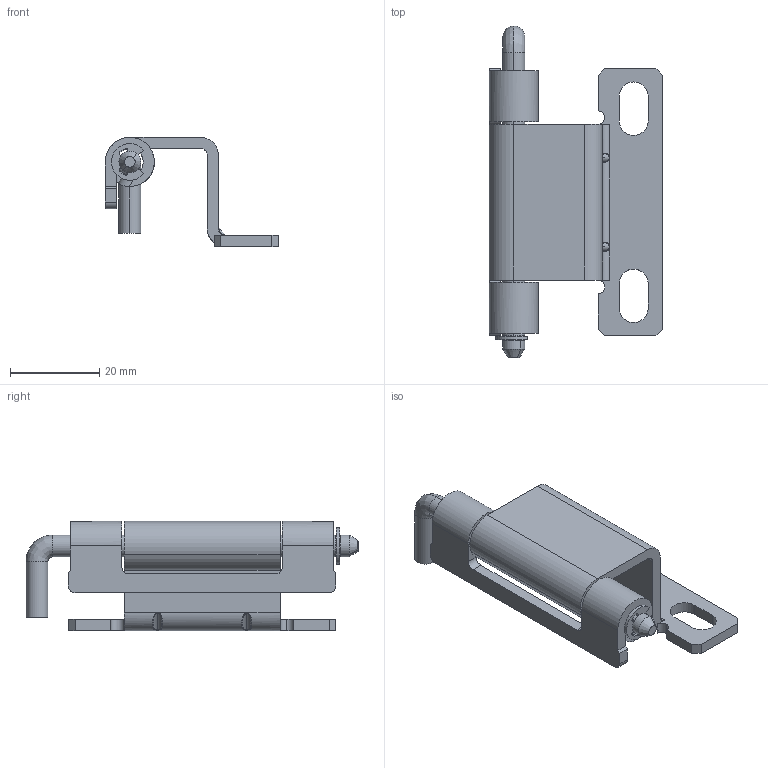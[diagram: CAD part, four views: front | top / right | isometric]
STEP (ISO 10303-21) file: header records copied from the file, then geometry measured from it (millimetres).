
FILE_DESCRIPTION(/* description */ (''),/* implementation_level */ '2;1');
FILE_NAME(/* name */ 'JL250-4',/* time_stamp */ '2025-03-17T11:54:47+08:00',/* author */ (''),/* organization */ (''),/* preprocessor_version */ 'ST-DEVELOPER v19.2',/* originating_system */ 'Rhino 8.5',/* authorisation */ '');
FILE_SCHEMA (('CONFIG_CONTROL_DESIGN'));
Length unit declared in the file: millimetre
Products named in the file (1): Document
Bounding box: 38.9 x 74.5 x 24.5 mm (x, y, z)
Volume: 10978.6 mm3; surface area: 10355.1 mm2
Topology: 4 solids, 4 shells, 126 faces, 319 edges, 206 vertices
Faces by surface type: cylinder 60, plane 46, bspline 20
Entity records: 4816 total; most frequent: CARTESIAN_POINT 2216, ORIENTED_EDGE 636, EDGE_CURVE 318, DIRECTION 306, AXIS2_PLACEMENT_3D 205, VERTEX_POINT 204, EDGE_LOOP 138, B_SPLINE_CURVE_WITH_KNOTS 134
